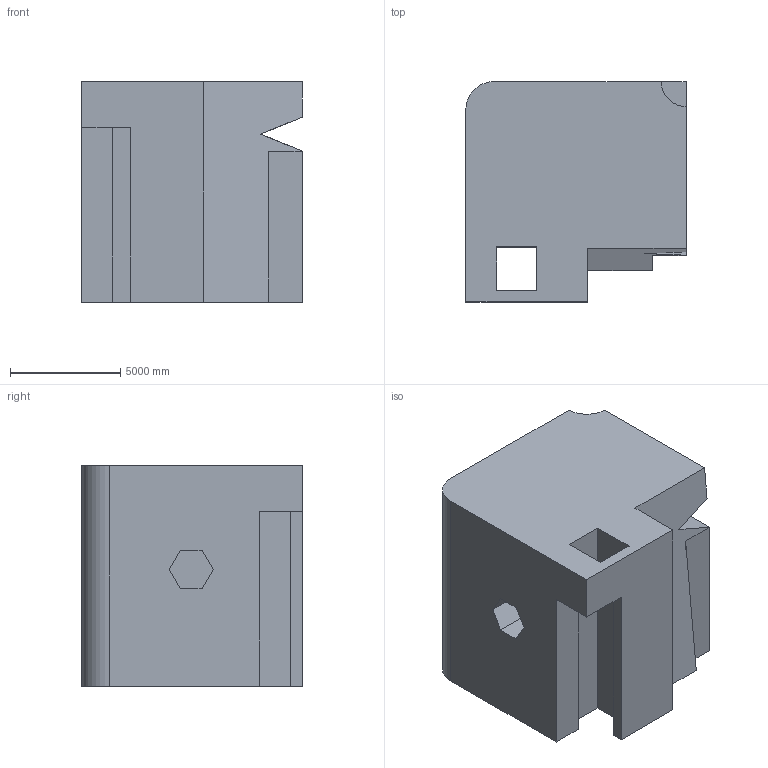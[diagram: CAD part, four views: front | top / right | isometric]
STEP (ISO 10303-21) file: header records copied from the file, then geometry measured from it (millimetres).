
FILE_DESCRIPTION (( 'STEP AP203' ), '1' );
FILE_NAME ('1760.STEP', '2022-08-19T12:40:06', ( 'user' ), ( '' ), 'SwSTEP 2.0', 'SolidWorks 2021', '' );
FILE_SCHEMA (( 'CONFIG_CONTROL_DESIGN' ));
Length unit declared in the file: centimetre
Products named in the file (1): 1760
Bounding box: 10000 x 10000 x 10000 mm (x, y, z)
Volume: 822204972006.2 mm3; surface area: 643236605.9 mm2
Topology: 1 solids, 1 shells, 31 faces, 87 edges, 58 vertices
Faces by surface type: plane 28, cylinder 3
Entity records: 1066 total; most frequent: CARTESIAN_POINT 183, ORIENTED_EDGE 174, DIRECTION 153, EDGE_CURVE 87, LINE 81, VECTOR 81, VERTEX_POINT 58, AXIS2_PLACEMENT_3D 36
